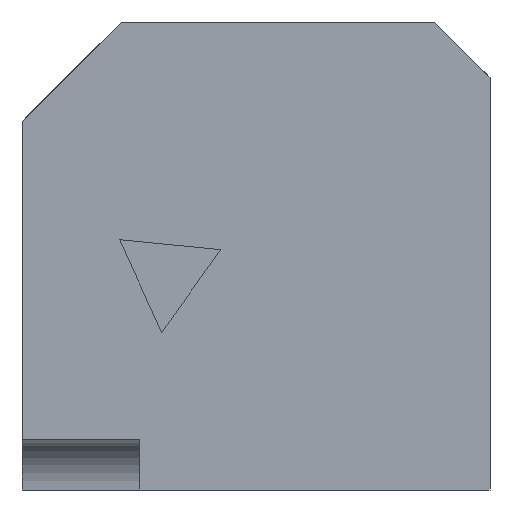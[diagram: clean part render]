
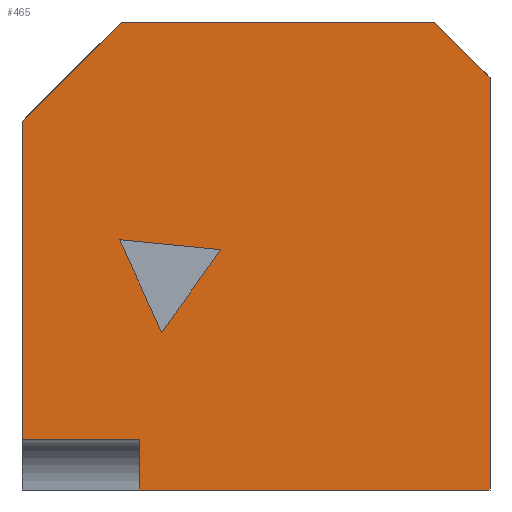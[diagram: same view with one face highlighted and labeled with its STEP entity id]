
A CAD part, front view. The second image highlights one B-rep face of the part: STEP entity #465.
In plain terms, the highlighted planar face has unit normal (0, -1, 0).
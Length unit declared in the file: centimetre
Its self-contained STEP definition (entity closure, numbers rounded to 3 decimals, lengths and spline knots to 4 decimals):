
#7 = ORIENTED_EDGE ( 'NONE', *, *, #366, .T. ) ;
#23 = VECTOR ( 'NONE', #515, 100. ) ;
#54 = CARTESIAN_POINT ( 'NONE',  ( 424.8799, 0., 513.6072 ) ) ;
#55 = EDGE_CURVE ( 'NONE', #514, #851, #1029, .T. ) ;
#58 = DIRECTION ( 'NONE',  ( 0., 0., -1. ) ) ;
#69 = CARTESIAN_POINT ( 'NONE',  ( 0., 0., 1000. ) ) ;
#71 = CARTESIAN_POINT ( 'NONE',  ( 208.5191, 0., 534.8324 ) ) ;
#78 = VERTEX_POINT ( 'NONE', #54 ) ;
#95 = CARTESIAN_POINT ( 'NONE',  ( 251.7372, 0., 107.4231 ) ) ;
#120 = LINE ( 'NONE', #1113, #23 ) ;
#146 = LINE ( 'NONE', #565, #440 ) ;
#162 = FACE_OUTER_BOUND ( 'NONE', #1062, .T. ) ;
#170 = CARTESIAN_POINT ( 'NONE',  ( 211.9405, 0., 1000. ) ) ;
#195 = CARTESIAN_POINT ( 'NONE',  ( 298.3179, 0., 336.8458 ) ) ;
#211 = LINE ( 'NONE', #999, #338 ) ;
#227 = CARTESIAN_POINT ( 'NONE',  ( 251.7372, 0., 107.4231 ) ) ;
#232 = AXIS2_PLACEMENT_3D ( 'NONE', #740, #951, #947 ) ;
#242 = LINE ( 'NONE', #523, #627 ) ;
#262 = LINE ( 'NONE', #69, #394 ) ;
#263 = CARTESIAN_POINT ( 'NONE',  ( 251.7372, 0., 0. ) ) ;
#270 = DIRECTION ( 'NONE',  ( 0.413, 0., -0.911 ) ) ;
#283 = ORIENTED_EDGE ( 'NONE', *, *, #893, .F. ) ;
#299 = VERTEX_POINT ( 'NONE', #630 ) ;
#309 = DIRECTION ( 'NONE',  ( -0.707, 0., -0.707 ) ) ;
#319 = EDGE_CURVE ( 'NONE', #299, #851, #120, .T. ) ;
#338 = VECTOR ( 'NONE', #775, 100. ) ;
#362 = FACE_BOUND ( 'NONE', #1215, .T. ) ;
#366 = EDGE_CURVE ( 'NONE', #693, #900, #723, .T. ) ;
#394 = VECTOR ( 'NONE', #58, 100. ) ;
#404 = CARTESIAN_POINT ( 'NONE',  ( 881.2091, 0., 1000. ) ) ;
#413 = CARTESIAN_POINT ( 'NONE',  ( 0., 0., 107.4231 ) ) ;
#422 = EDGE_CURVE ( 'NONE', #78, #977, #146, .T. ) ;
#424 = DIRECTION ( 'NONE',  ( 0., 0., 1. ) ) ;
#429 = CARTESIAN_POINT ( 'NONE',  ( 1000., 0., 1000. ) ) ;
#440 = VECTOR ( 'NONE', #468, 100. ) ;
#447 = DIRECTION ( 'NONE',  ( 1., 0., 0. ) ) ;
#465 = ADVANCED_FACE ( 'NONE', ( #362, #162 ), #555, .F. ) ;
#468 = DIRECTION ( 'NONE',  ( -0.995, 0., 0.098 ) ) ;
#478 = VECTOR ( 'NONE', #270, 100. ) ;
#483 = EDGE_CURVE ( 'NONE', #1109, #693, #262, .T. ) ;
#489 = LINE ( 'NONE', #601, #726 ) ;
#514 = VERTEX_POINT ( 'NONE', #170 ) ;
#515 = DIRECTION ( 'NONE',  ( -0.707, 0., 0.707 ) ) ;
#523 = CARTESIAN_POINT ( 'NONE',  ( 251.7372, 0., 1000. ) ) ;
#525 = VECTOR ( 'NONE', #1250, 100. ) ;
#544 = CARTESIAN_POINT ( 'NONE',  ( 208.5191, 0., 534.8324 ) ) ;
#555 = PLANE ( 'NONE',  #232 ) ;
#565 = CARTESIAN_POINT ( 'NONE',  ( 424.8799, 0., 513.6072 ) ) ;
#581 = ORIENTED_EDGE ( 'NONE', *, *, #960, .F. ) ;
#601 = CARTESIAN_POINT ( 'NONE',  ( 211.9405, 0., 1000. ) ) ;
#627 = VECTOR ( 'NONE', #424, 100. ) ;
#630 = CARTESIAN_POINT ( 'NONE',  ( 1000., 0., 881.2091 ) ) ;
#646 = VECTOR ( 'NONE', #1013, 100. ) ;
#653 = LINE ( 'NONE', #71, #478 ) ;
#661 = VECTOR ( 'NONE', #1194, 100. ) ;
#669 = CARTESIAN_POINT ( 'NONE',  ( 0., 0., 788.0595 ) ) ;
#693 = VERTEX_POINT ( 'NONE', #413 ) ;
#700 = ORIENTED_EDGE ( 'NONE', *, *, #1057, .F. ) ;
#720 = CARTESIAN_POINT ( 'NONE',  ( 0., 0., 1000. ) ) ;
#723 = LINE ( 'NONE', #227, #646 ) ;
#726 = VECTOR ( 'NONE', #309, 100. ) ;
#740 = CARTESIAN_POINT ( 'NONE',  ( 0., 0., 1000. ) ) ;
#772 = ORIENTED_EDGE ( 'NONE', *, *, #55, .F. ) ;
#775 = DIRECTION ( 'NONE',  ( 1., 0., 0. ) ) ;
#778 = ORIENTED_EDGE ( 'NONE', *, *, #901, .T. ) ;
#805 = CARTESIAN_POINT ( 'NONE',  ( 1000., 0., 0. ) ) ;
#851 = VERTEX_POINT ( 'NONE', #404 ) ;
#893 = EDGE_CURVE ( 'NONE', #1172, #78, #1163, .T. ) ;
#900 = VERTEX_POINT ( 'NONE', #95 ) ;
#901 = EDGE_CURVE ( 'NONE', #514, #1109, #489, .T. ) ;
#922 = VECTOR ( 'NONE', #447, 100. ) ;
#933 = EDGE_CURVE ( 'NONE', #1231, #1018, #211, .T. ) ;
#947 = DIRECTION ( 'NONE',  ( 0., 0., 1. ) ) ;
#951 = DIRECTION ( 'NONE',  ( 0., 1., 0. ) ) ;
#957 = ORIENTED_EDGE ( 'NONE', *, *, #319, .T. ) ;
#960 = EDGE_CURVE ( 'NONE', #299, #1018, #1127, .T. ) ;
#973 = CARTESIAN_POINT ( 'NONE',  ( 298.3179, 0., 336.8458 ) ) ;
#977 = VERTEX_POINT ( 'NONE', #544 ) ;
#978 = ORIENTED_EDGE ( 'NONE', *, *, #1236, .F. ) ;
#995 = ORIENTED_EDGE ( 'NONE', *, *, #422, .F. ) ;
#999 = CARTESIAN_POINT ( 'NONE',  ( 0., 0., 0. ) ) ;
#1013 = DIRECTION ( 'NONE',  ( 1., 0., 0. ) ) ;
#1018 = VERTEX_POINT ( 'NONE', #805 ) ;
#1029 = LINE ( 'NONE', #720, #922 ) ;
#1057 = EDGE_CURVE ( 'NONE', #1231, #900, #242, .T. ) ;
#1062 = EDGE_LOOP ( 'NONE', ( #1116, #7, #700, #1090, #581, #957, #772, #778 ) ) ;
#1090 = ORIENTED_EDGE ( 'NONE', *, *, #933, .T. ) ;
#1109 = VERTEX_POINT ( 'NONE', #669 ) ;
#1113 = CARTESIAN_POINT ( 'NONE',  ( 881.2091, 0., 1000. ) ) ;
#1116 = ORIENTED_EDGE ( 'NONE', *, *, #483, .T. ) ;
#1127 = LINE ( 'NONE', #429, #661 ) ;
#1163 = LINE ( 'NONE', #973, #525 ) ;
#1172 = VERTEX_POINT ( 'NONE', #195 ) ;
#1194 = DIRECTION ( 'NONE',  ( 0., 0., -1. ) ) ;
#1215 = EDGE_LOOP ( 'NONE', ( #995, #283, #978 ) ) ;
#1231 = VERTEX_POINT ( 'NONE', #263 ) ;
#1236 = EDGE_CURVE ( 'NONE', #977, #1172, #653, .T. ) ;
#1250 = DIRECTION ( 'NONE',  ( 0.582, 0., 0.813 ) ) ;
